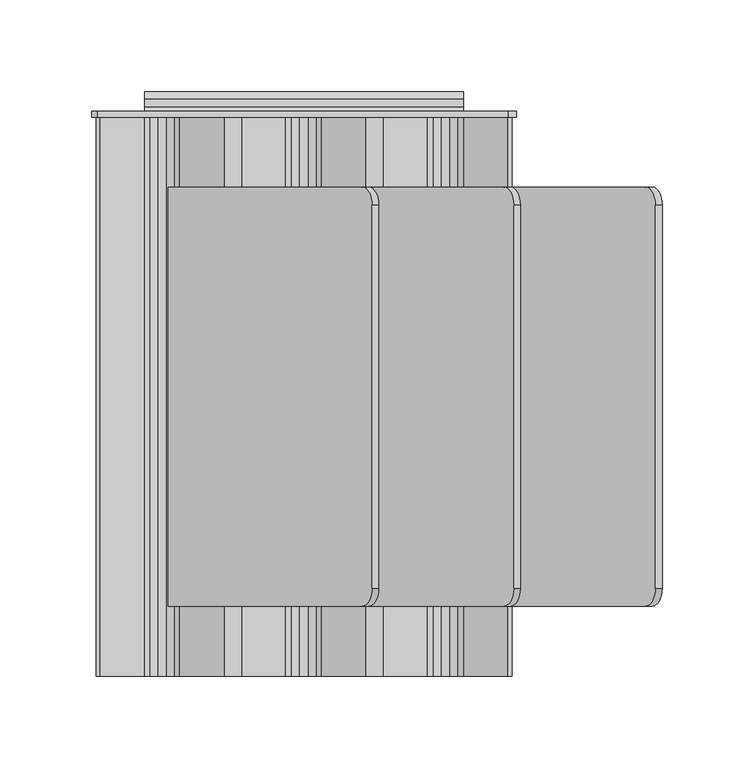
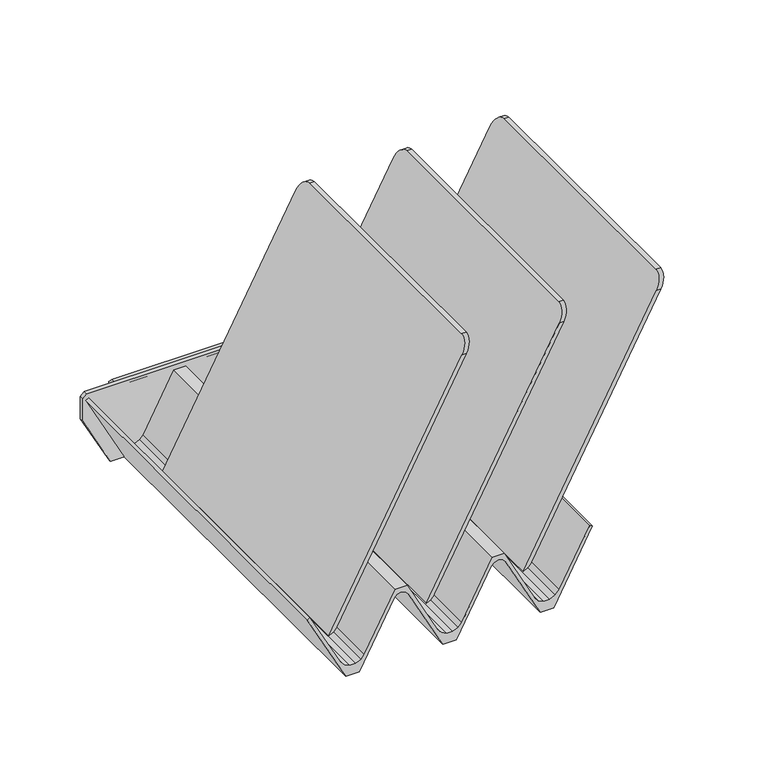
"""IFC4 building model written with IfcOpenShell, lengths in millimetres: furniture geometry."""

from ifc_helpers import new_model, si_unit, point, frame, frame_2d, origin, place, context, project, spatial, polyline, circle_curve, ellipse_curve, trimmed, segment, composite_curve, outline, extrude, source, transform, mapped, element, save
from ifc_brep_helpers import plane_surface, cylinder_surface, advanced_brep


def furniture_af2524bc(model_context):
    return source(origin(), model_context, "Body", "SolidModel", [
        advanced_brep(
        [(-78.5076305, -115.8875182, 861.58832), (-74.9117341, -115.8875182, 861.58832), (35.3237269, -115.8875182, 1068.9110634), (31.7278836, -115.8875182, 1068.9110634), (-74.9117341, 112.7124864, 861.58832), (-78.5076305, 112.7124864, 861.58832), (31.7278836, 112.7124864, 1068.9110634), (35.3237269, 112.7124864, 1068.9110634), (40.728424, 102.8883555, 1079.07582), (40.728424, -105.9830355, 1079.07582), (37.1325833, 102.8883555, 1079.07582), (37.1325833, -105.9830355, 1079.07582)],
        [
            (0, 1),
            (1, 2),
            (2, 3),
            (3, 0),
            (4, 5),
            (5, 6),
            (6, 7),
            (7, 4),
            (0, 5),
            (4, 1),
            (7, 8, ellipse_curve(frame((35.3237269, 102.5418246, 1068.9110634), z_axis=(0.8829475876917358, 0.0, -0.46947157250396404), x_axis=(-0.4694715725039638, 0.0, -0.8829475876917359)), 11.518987, 10.1706618)),
            (8, 9),
            (9, 2, ellipse_curve(frame((35.3237269, -105.7193418, 1068.9110634), z_axis=(0.8829475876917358, 0.0, -0.46947157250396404), x_axis=(-0.4694715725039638, 0.0, -0.8829475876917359)), 11.5161721, 10.1681764)),
            (8, 10),
            (10, 11),
            (11, 9),
            (3, 11, ellipse_curve(frame((31.7278836, -105.7193418, 1068.9110634), z_axis=(-0.8829474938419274, 0.0, 0.46947174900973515), x_axis=(-0.46947174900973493, 0.0, -0.8829474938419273)), 11.5161734, 10.1681764)),
            (10, 6, ellipse_curve(frame((31.7278836, 102.5418246, 1068.9110634), z_axis=(-0.8829474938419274, 0.0, 0.46947174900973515), x_axis=(-0.46947174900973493, 0.0, -0.8829474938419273)), 11.5189882, 10.1706618)),
        ],
        [
            plane_surface(frame((-78.5076305, -115.8875182, 861.58832), z_axis=(0.0, -1.0, 0.0), x_axis=(1.0, 0.0, 0.0))),
            plane_surface(frame((-78.5076305, 112.7124864, 861.58832), z_axis=(0.0, 1.0, 0.0), x_axis=(-1.0, 0.0, 0.0))),
            plane_surface(frame((-78.5076305, -115.8875182, 861.58832), z_axis=(0.0, 0.0, -1.0), x_axis=(0.0, 1.0, 0.0))),
            plane_surface(frame((-74.9117341, -115.8875182, 861.58832), z_axis=(0.8829475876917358, 0.0, -0.46947157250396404), x_axis=(0.0, 1.0, 0.0))),
            plane_surface(frame((40.728424, -115.8875182, 1079.07582), z_axis=(0.0, 0.0, 1.0), x_axis=(0.0, 1.0, 0.0))),
            plane_surface(frame((37.1325833, -115.8875182, 1079.07582), z_axis=(-0.8829474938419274, 0.0, 0.46947174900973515), x_axis=(0.0, 1.0, 0.0))),
            cylinder_surface(frame((0.0, 102.5418246, 1068.9110634), z_axis=(-1.0, 0.0, 0.0), x_axis=(0.0, 1.0, 0.0)), 10.1706618),
            cylinder_surface(frame((0.0, -105.7193418, 1068.9110634), z_axis=(-1.0, 0.0, 0.0), x_axis=(0.0, 1.0, 0.0)), 10.1681764),
        ],
        [
            (0, [[1, 2, 3, 4]]),
            (1, [[5, 6, 7, 8]]),
            (2, [[-1, 9, -5, 10]]),
            (3, [[-10, -8, 11, 12, 13, -2]]),
            (4, [[-12, 14, 15, 16]]),
            (5, [[-9, -4, 17, -15, 18, -6]]),
            (6, [[-7, -18, -14, -11]]),
            (7, [[-3, -13, -16, -17]]),
        ],
    ),
        advanced_brep(
        [(-0.9107932, -115.8875182, 861.58832), (2.3550823, -115.8875182, 861.58832), (112.5905464, -115.8875182, 1068.9110634), (109.0097063, -115.8875182, 1068.9110634), (2.3550823, 112.7124864, 861.58832), (-0.9107932, 112.7124864, 861.58832), (109.0097063, 112.7124864, 1068.9110634), (112.5905464, 112.7124864, 1068.9110634), (117.9952436, 102.8883555, 1079.07582), (117.9952436, -105.9830355, 1079.07582), (114.3989613, 102.8883555, 1079.07582), (114.3989613, -105.9830355, 1079.07582)],
        [
            (0, 1),
            (1, 2),
            (2, 3),
            (3, 0),
            (4, 5),
            (5, 6),
            (6, 7),
            (7, 4),
            (0, 5),
            (4, 1),
            (7, 8, ellipse_curve(frame((112.5905464, 102.5418246, 1068.9110634), z_axis=(0.882947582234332, 0.0, -0.4694715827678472), x_axis=(-0.4694715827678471, 0.0, -0.8829475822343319)), 11.518987, 10.1706618)),
            (8, 9),
            (9, 2, ellipse_curve(frame((112.5905464, -105.7193418, 1068.9110634), z_axis=(0.882947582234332, 0.0, -0.4694715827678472), x_axis=(-0.4694715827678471, 0.0, -0.8829475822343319)), 11.5161722, 10.1681764)),
            (8, 10),
            (10, 11),
            (11, 9),
            (3, 11, ellipse_curve(frame((109.0097063, -105.7193418, 1068.9110634), z_axis=(-0.88350333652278, 0.0, 0.46842486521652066), x_axis=(-0.4684248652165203, 0.0, -0.8835033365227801)), 11.5089281, 10.1681764)),
            (10, 6, ellipse_curve(frame((109.0097063, 102.5418246, 1068.9110634), z_axis=(-0.88350333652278, 0.0, 0.46842486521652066), x_axis=(-0.4684248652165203, 0.0, -0.8835033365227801)), 11.5117412, 10.1706618)),
        ],
        [
            plane_surface(frame((-78.5076305, -115.8875182, 861.58832), z_axis=(0.0, -1.0, 0.0), x_axis=(1.0, 0.0, 0.0))),
            plane_surface(frame((-78.5076305, 112.7124864, 861.58832), z_axis=(0.0, 1.0, 0.0), x_axis=(-1.0, 0.0, 0.0))),
            plane_surface(frame((-0.9107932, -115.8875182, 861.58832), z_axis=(0.0, 0.0, -1.0), x_axis=(0.0, 1.0, 0.0))),
            plane_surface(frame((2.3550823, -115.8875182, 861.58832), z_axis=(0.882947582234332, 0.0, -0.4694715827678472), x_axis=(0.0, 1.0, 0.0))),
            plane_surface(frame((117.9952436, -115.8875182, 1079.07582), z_axis=(0.0, 0.0, 1.0), x_axis=(0.0, 1.0, 0.0))),
            plane_surface(frame((114.3989613, -115.8875182, 1079.07582), z_axis=(-0.88350333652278, 0.0, 0.46842486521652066), x_axis=(0.0, 1.0, 0.0))),
            cylinder_surface(frame((0.0, 102.5418246, 1068.9110634), z_axis=(-1.0, 0.0, 0.0), x_axis=(0.0, 1.0, 0.0)), 10.1706618),
            cylinder_surface(frame((0.0, -105.7193418, 1068.9110634), z_axis=(-1.0, 0.0, 0.0), x_axis=(0.0, 1.0, 0.0)), 10.1681764),
        ],
        [
            (0, [[1, 2, 3, 4]]),
            (1, [[5, 6, 7, 8]]),
            (2, [[-1, 9, -5, 10]]),
            (3, [[-10, -8, 11, 12, 13, -2]]),
            (4, [[-12, 14, 15, 16]]),
            (5, [[-9, -4, 17, -15, 18, -6]]),
            (6, [[-7, -18, -14, -11]]),
            (7, [[-3, -13, -16, -17]]),
        ],
    ),
        advanced_brep(
        [(76.0259689, -115.8875182, 861.58832), (79.7811739, -115.8875182, 861.58832), (190.0166176, -115.8875182, 1068.9110634), (186.2614289, -115.8875182, 1068.9110634), (79.7811739, 112.7124864, 861.58832), (76.0259689, 112.7124864, 861.58832), (186.2614289, 112.7124864, 1068.9110634), (190.0166176, 112.7124864, 1068.9110634), (195.4213139, 102.8883555, 1079.07582), (195.4213139, -105.9830355, 1079.07582), (191.666126, 102.8883555, 1079.07582), (191.666126, -105.9830355, 1079.07582)],
        [
            (0, 1),
            (1, 2),
            (2, 3),
            (3, 0),
            (4, 5),
            (5, 6),
            (6, 7),
            (7, 4),
            (0, 5),
            (4, 1),
            (7, 8, ellipse_curve(frame((190.0166176, 102.5418246, 1068.9110634), z_axis=(0.8829476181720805, 0.0, -0.46947151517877), x_axis=(-0.4694715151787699, 0.0, -0.8829476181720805)), 11.5189866, 10.1706618)),
            (8, 9),
            (9, 2, ellipse_curve(frame((190.0166176, -105.7193418, 1068.9110634), z_axis=(0.8829476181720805, 0.0, -0.46947151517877), x_axis=(-0.4694715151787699, 0.0, -0.8829476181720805)), 11.5161717, 10.1681764)),
            (8, 10),
            (10, 11),
            (11, 9),
            (3, 11, ellipse_curve(frame((186.2614289, -105.7193418, 1068.9110634), z_axis=(-0.8829475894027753, 0.0, 0.4694715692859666), x_axis=(-0.46947156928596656, 0.0, -0.8829475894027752)), 11.5161721, 10.1681764)),
            (10, 6, ellipse_curve(frame((186.2614289, 102.5418246, 1068.9110634), z_axis=(-0.8829475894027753, 0.0, 0.4694715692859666), x_axis=(-0.46947156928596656, 0.0, -0.8829475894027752)), 11.5189869, 10.1706618)),
        ],
        [
            plane_surface(frame((-78.5076305, -115.8875182, 861.58832), z_axis=(0.0, -1.0, 0.0), x_axis=(1.0, 0.0, 0.0))),
            plane_surface(frame((-78.5076305, 112.7124864, 861.58832), z_axis=(0.0, 1.0, 0.0), x_axis=(-1.0, 0.0, 0.0))),
            plane_surface(frame((76.0259689, -115.8875182, 861.58832), z_axis=(0.0, 0.0, -1.0), x_axis=(0.0, 1.0, 0.0))),
            plane_surface(frame((79.7811739, -115.8875182, 861.58832), z_axis=(0.8829476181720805, 0.0, -0.46947151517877), x_axis=(0.0, 1.0, 0.0))),
            plane_surface(frame((195.4213139, -115.8875182, 1079.07582), z_axis=(0.0, 0.0, 1.0), x_axis=(0.0, 1.0, 0.0))),
            plane_surface(frame((191.666126, -115.8875182, 1079.07582), z_axis=(-0.8829475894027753, 0.0, 0.4694715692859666), x_axis=(0.0, 1.0, 0.0))),
            cylinder_surface(frame((0.0, 102.5418246, 1068.9110634), z_axis=(-1.0, 0.0, 0.0), x_axis=(0.0, 1.0, 0.0)), 10.1706618),
            cylinder_surface(frame((0.0, -105.7193418, 1068.9110634), z_axis=(-1.0, 0.0, 0.0), x_axis=(0.0, 1.0, 0.0)), 10.1681764),
        ],
        [
            (0, [[1, 2, 3, 4]]),
            (1, [[5, 6, 7, 8]]),
            (2, [[-1, 9, -5, 10]]),
            (3, [[-10, -8, 11, 12, 13, -2]]),
            (4, [[-12, 14, 15, 16]]),
            (5, [[-9, -4, 17, -15, 18, -6]]),
            (6, [[-7, -18, -14, -11]]),
            (7, [[-3, -13, -16, -17]]),
        ],
    ),
        extrude(outline(polyline([(919.7748704, -113.3404132), (861.58832, -82.6180755), (861.58832, -71.8286766), (914.1123823, -44.096121), (916.3789631, -41.9545616), (917.2906962, -38.676187), (916.3789631, -35.3978079), (913.9055771, -33.0608503), (861.58832, -5.4374818), (861.58832, 5.4381185), (914.1123814, 33.170679), (916.3789631, 35.3122394), (917.2906962, 38.5906094), (916.3789631, 41.8689885), (913.8497559, 44.2586883), (861.58832, 71.9155202), (861.58832, 82.7049229), (919.774866, 113.4272483), (920.8911632, 111.3130508), (875.4438296, 87.1482781), (871.7884741, 84.0519156), (869.7740304, 79.7054876), (869.7740304, 74.9149551), (871.7884741, 70.5685271), (875.5488561, 67.3831993), (920.9608184, 43.2968127), (920.9608184, 33.9240014), (874.9387475, 9.4536309), (871.7884741, 6.7851111), (869.7740304, 2.4386922), (869.7740304, -2.3518493), (872.2237946, -6.6982682), (875.7832821, -9.9738698), (920.9608184, -33.8274808), (920.9608184, -43.3428158), (874.9386947, -67.8132137), (871.7884741, -70.4816887), (869.7740304, -74.8281031), (869.7740304, -79.6186492), (871.7884741, -83.9650636), (875.4438462, -87.0614424), (920.960823, -111.0942793), (919.7748704, -113.3404132)])), frame((0.0, -153.9875, 0.0), z_axis=(0.0, 1.0, 0.0), x_axis=(0.0, 0.0, 1.0)), (0.0, 0.0, 1.0), 304.7999878),
        extrude(outline(polyline([(921.9133194, -115.844077), (903.2782807, -115.844077), (861.58832, -93.8318941), (861.58832, 93.918737), (903.2782807, 115.930929), (921.9133184, 115.930929), (925.0883185, 111.5932577), (925.0883185, -112.669078), (921.9133194, -115.844077)])), frame((0.0, 150.8124878, 0.0), z_axis=(0.0, 1.0, 0.0), x_axis=(0.0, 0.0, 1.0)), (0.0, 0.0, 1.0), 3.1750122),
        extrude(outline(composite_curve([segment(polyline([(164.6784774, 918.0995314), (164.6784774, 915.5217805)]), True, "CONTINUOUS"), segment(trimmed(circle_curve(frame_2d((162.7734784, 915.5217805)), 1.904999), [point((164.6784774, 915.5217805))], [point((160.8684793, 915.5217805))], False, "CARTESIAN"), True, "CONTINUOUS"), segment(polyline([(160.8684793, 915.5217805), (160.8684793, 918.0995314), (156.5435882, 918.0995314), (153.9875, 915.5434432), (153.9875, 925.0883185), (156.5435882, 921.9095313), (160.8684775, 921.9095313), (164.6784774, 918.0995314)]), True, "CONTINUOUS")], self_intersect=False)), frame((-87.0345642, 0.0, 0.0), z_axis=(1.0, 0.0, 0.0), x_axis=(0.0, 1.0, 0.0)), (0.0, 0.0, 1.0), 174.0691284),
    ])


if __name__ == "__main__":
    model = new_model("IFC4")
    model_context = context("Model", 3, world=origin())
    ifc_project = project(units=[si_unit("LENGTHUNIT", "METRE", prefix="MILLI")], contexts=[model_context])
    site = spatial("IfcSite", under=ifc_project)
    building = spatial("IfcBuilding", under=site)
    placement = place(None, origin())
    furniture_shape = furniture_af2524bc(model_context)
    element("IfcFurniture", 1, ObjectType="HermanMiller_ThrivePortfolio_Y7218_DiagonalTray : 8 1/2\"H x 12\"D x 13\"W", at=placement, inside=building, context=model_context, shape_type="MappedRepresentation", body=[
        mapped(furniture_shape, transform((0.0, 0.0, 0.0), x_axis=(1.0, 0.0, 0.0), y_axis=(0.0, 1.0, 0.0), z_axis=(0.0, 0.0, 1.0))),
    ])
    save(model, "model.ifc")
